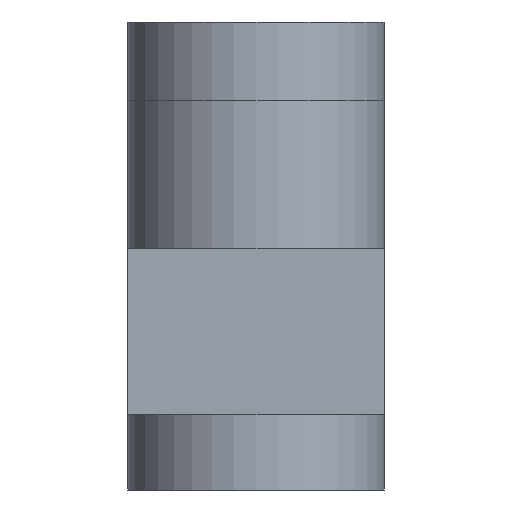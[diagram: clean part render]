
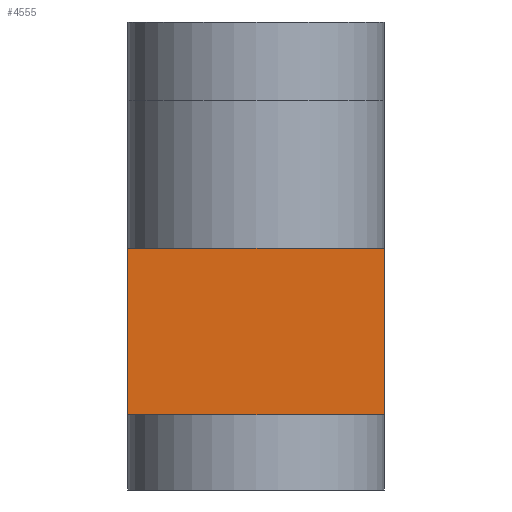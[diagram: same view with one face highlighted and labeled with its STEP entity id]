
A CAD part, left-side view. The second image highlights one B-rep face of the part: STEP entity #4555.
In plain terms, the highlighted planar face has unit normal (-1, 0, 0).
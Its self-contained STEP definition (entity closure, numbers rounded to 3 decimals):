
#371 = PLANE('',#372);
#372 = AXIS2_PLACEMENT_3D('',#373,#374,#375);
#373 = CARTESIAN_POINT('',(-112.,17.,-5.));
#374 = DIRECTION('',(-0.,1.,0.));
#375 = DIRECTION('',(0.,0.,1.));
#452 = PLANE('',#453);
#453 = AXIS2_PLACEMENT_3D('',#454,#455,#456);
#454 = CARTESIAN_POINT('',(-112.,-17.,-5.));
#455 = DIRECTION('',(-0.,1.,0.));
#456 = DIRECTION('',(0.,0.,1.));
#2031 = VERTEX_POINT('',#2032);
#2032 = CARTESIAN_POINT('',(-112.,17.,-5.));
#2046 = PLANE('',#2047);
#2047 = AXIS2_PLACEMENT_3D('',#2048,#2049,#2050);
#2048 = CARTESIAN_POINT('',(-112.,-17.,-5.));
#2049 = DIRECTION('',(0.,0.,1.));
#2050 = DIRECTION('',(1.,0.,-0.));
#2058 = EDGE_CURVE('',#2031,#2059,#2061,.T.);
#2059 = VERTEX_POINT('',#2060);
#2060 = CARTESIAN_POINT('',(-112.,17.,17.));
#2061 = SURFACE_CURVE('',#2062,(#2066,#2073),.PCURVE_S1.);
#2062 = LINE('',#2063,#2064);
#2063 = CARTESIAN_POINT('',(-112.,17.,-5.));
#2064 = VECTOR('',#2065,1.);
#2065 = DIRECTION('',(0.,0.,1.));
#2066 = PCURVE('',#371,#2067);
#2067 = DEFINITIONAL_REPRESENTATION('',(#2068),#2072);
#2068 = LINE('',#2069,#2070);
#2069 = CARTESIAN_POINT('',(0.,0.));
#2070 = VECTOR('',#2071,1.);
#2071 = DIRECTION('',(1.,0.));
#2072 = ( GEOMETRIC_REPRESENTATION_CONTEXT(2) 
PARAMETRIC_REPRESENTATION_CONTEXT() REPRESENTATION_CONTEXT('2D SPACE',''
  ) );
#2073 = PCURVE('',#2074,#2079);
#2074 = PLANE('',#2075);
#2075 = AXIS2_PLACEMENT_3D('',#2076,#2077,#2078);
#2076 = CARTESIAN_POINT('',(-112.,-17.,-5.));
#2077 = DIRECTION('',(1.,0.,-0.));
#2078 = DIRECTION('',(0.,0.,1.));
#2079 = DEFINITIONAL_REPRESENTATION('',(#2080),#2084);
#2080 = LINE('',#2081,#2082);
#2081 = CARTESIAN_POINT('',(0.,-34.));
#2082 = VECTOR('',#2083,1.);
#2083 = DIRECTION('',(1.,0.));
#2084 = ( GEOMETRIC_REPRESENTATION_CONTEXT(2) 
PARAMETRIC_REPRESENTATION_CONTEXT() REPRESENTATION_CONTEXT('2D SPACE',''
  ) );
#2100 = PLANE('',#2101);
#2101 = AXIS2_PLACEMENT_3D('',#2102,#2103,#2104);
#2102 = CARTESIAN_POINT('',(-112.,-17.,17.));
#2103 = DIRECTION('',(0.,0.,1.));
#2104 = DIRECTION('',(1.,0.,-0.));
#2247 = VERTEX_POINT('',#2248);
#2248 = CARTESIAN_POINT('',(-112.,0.,17.));
#2285 = PLANE('',#2286);
#2286 = AXIS2_PLACEMENT_3D('',#2287,#2288,#2289);
#2287 = CARTESIAN_POINT('',(-112.,-17.,17.));
#2288 = DIRECTION('',(0.,0.,1.));
#2289 = DIRECTION('',(1.,0.,-0.));
#2332 = VERTEX_POINT('',#2333);
#2333 = CARTESIAN_POINT('',(-112.,-17.,-5.));
#2347 = PLANE('',#2348);
#2348 = AXIS2_PLACEMENT_3D('',#2349,#2350,#2351);
#2349 = CARTESIAN_POINT('',(-112.,-17.,-5.));
#2350 = DIRECTION('',(0.,0.,1.));
#2351 = DIRECTION('',(1.,0.,-0.));
#2359 = EDGE_CURVE('',#2332,#2360,#2362,.T.);
#2360 = VERTEX_POINT('',#2361);
#2361 = CARTESIAN_POINT('',(-112.,-17.,17.));
#2362 = SURFACE_CURVE('',#2363,(#2367,#2374),.PCURVE_S1.);
#2363 = LINE('',#2364,#2365);
#2364 = CARTESIAN_POINT('',(-112.,-17.,-5.));
#2365 = VECTOR('',#2366,1.);
#2366 = DIRECTION('',(0.,0.,1.));
#2367 = PCURVE('',#452,#2368);
#2368 = DEFINITIONAL_REPRESENTATION('',(#2369),#2373);
#2369 = LINE('',#2370,#2371);
#2370 = CARTESIAN_POINT('',(0.,0.));
#2371 = VECTOR('',#2372,1.);
#2372 = DIRECTION('',(1.,0.));
#2373 = ( GEOMETRIC_REPRESENTATION_CONTEXT(2) 
PARAMETRIC_REPRESENTATION_CONTEXT() REPRESENTATION_CONTEXT('2D SPACE',''
  ) );
#2374 = PCURVE('',#2074,#2375);
#2375 = DEFINITIONAL_REPRESENTATION('',(#2376),#2380);
#2376 = LINE('',#2377,#2378);
#2377 = CARTESIAN_POINT('',(0.,0.));
#2378 = VECTOR('',#2379,1.);
#2379 = DIRECTION('',(1.,0.));
#2380 = ( GEOMETRIC_REPRESENTATION_CONTEXT(2) 
PARAMETRIC_REPRESENTATION_CONTEXT() REPRESENTATION_CONTEXT('2D SPACE',''
  ) );
#4510 = EDGE_CURVE('',#4511,#2031,#4513,.T.);
#4511 = VERTEX_POINT('',#4512);
#4512 = CARTESIAN_POINT('',(-112.,0.,-5.));
#4513 = SURFACE_CURVE('',#4514,(#4518,#4525),.PCURVE_S1.);
#4514 = LINE('',#4515,#4516);
#4515 = CARTESIAN_POINT('',(-112.,-17.,-5.));
#4516 = VECTOR('',#4517,1.);
#4517 = DIRECTION('',(-0.,1.,0.));
#4518 = PCURVE('',#2046,#4519);
#4519 = DEFINITIONAL_REPRESENTATION('',(#4520),#4524);
#4520 = LINE('',#4521,#4522);
#4521 = CARTESIAN_POINT('',(0.,0.));
#4522 = VECTOR('',#4523,1.);
#4523 = DIRECTION('',(0.,1.));
#4524 = ( GEOMETRIC_REPRESENTATION_CONTEXT(2) 
PARAMETRIC_REPRESENTATION_CONTEXT() REPRESENTATION_CONTEXT('2D SPACE',''
  ) );
#4525 = PCURVE('',#2074,#4526);
#4526 = DEFINITIONAL_REPRESENTATION('',(#4527),#4531);
#4527 = LINE('',#4528,#4529);
#4528 = CARTESIAN_POINT('',(0.,0.));
#4529 = VECTOR('',#4530,1.);
#4530 = DIRECTION('',(0.,-1.));
#4531 = ( GEOMETRIC_REPRESENTATION_CONTEXT(2) 
PARAMETRIC_REPRESENTATION_CONTEXT() REPRESENTATION_CONTEXT('2D SPACE',''
  ) );
#4555 = ADVANCED_FACE('',(#4556),#2074,.F.);
#4556 = FACE_BOUND('',#4557,.F.);
#4557 = EDGE_LOOP('',(#4558,#4579,#4580,#4601,#4602,#4603));
#4558 = ORIENTED_EDGE('',*,*,#4559,.F.);
#4559 = EDGE_CURVE('',#2360,#2247,#4560,.T.);
#4560 = SURFACE_CURVE('',#4561,(#4565,#4572),.PCURVE_S1.);
#4561 = LINE('',#4562,#4563);
#4562 = CARTESIAN_POINT('',(-112.,-17.,17.));
#4563 = VECTOR('',#4564,1.);
#4564 = DIRECTION('',(-0.,1.,0.));
#4565 = PCURVE('',#2074,#4566);
#4566 = DEFINITIONAL_REPRESENTATION('',(#4567),#4571);
#4567 = LINE('',#4568,#4569);
#4568 = CARTESIAN_POINT('',(22.,0.));
#4569 = VECTOR('',#4570,1.);
#4570 = DIRECTION('',(0.,-1.));
#4571 = ( GEOMETRIC_REPRESENTATION_CONTEXT(2) 
PARAMETRIC_REPRESENTATION_CONTEXT() REPRESENTATION_CONTEXT('2D SPACE',''
  ) );
#4572 = PCURVE('',#2285,#4573);
#4573 = DEFINITIONAL_REPRESENTATION('',(#4574),#4578);
#4574 = LINE('',#4575,#4576);
#4575 = CARTESIAN_POINT('',(0.,0.));
#4576 = VECTOR('',#4577,1.);
#4577 = DIRECTION('',(0.,1.));
#4578 = ( GEOMETRIC_REPRESENTATION_CONTEXT(2) 
PARAMETRIC_REPRESENTATION_CONTEXT() REPRESENTATION_CONTEXT('2D SPACE',''
  ) );
#4579 = ORIENTED_EDGE('',*,*,#2359,.F.);
#4580 = ORIENTED_EDGE('',*,*,#4581,.T.);
#4581 = EDGE_CURVE('',#2332,#4511,#4582,.T.);
#4582 = SURFACE_CURVE('',#4583,(#4587,#4594),.PCURVE_S1.);
#4583 = LINE('',#4584,#4585);
#4584 = CARTESIAN_POINT('',(-112.,-17.,-5.));
#4585 = VECTOR('',#4586,1.);
#4586 = DIRECTION('',(-0.,1.,0.));
#4587 = PCURVE('',#2074,#4588);
#4588 = DEFINITIONAL_REPRESENTATION('',(#4589),#4593);
#4589 = LINE('',#4590,#4591);
#4590 = CARTESIAN_POINT('',(0.,0.));
#4591 = VECTOR('',#4592,1.);
#4592 = DIRECTION('',(0.,-1.));
#4593 = ( GEOMETRIC_REPRESENTATION_CONTEXT(2) 
PARAMETRIC_REPRESENTATION_CONTEXT() REPRESENTATION_CONTEXT('2D SPACE',''
  ) );
#4594 = PCURVE('',#2347,#4595);
#4595 = DEFINITIONAL_REPRESENTATION('',(#4596),#4600);
#4596 = LINE('',#4597,#4598);
#4597 = CARTESIAN_POINT('',(0.,0.));
#4598 = VECTOR('',#4599,1.);
#4599 = DIRECTION('',(0.,1.));
#4600 = ( GEOMETRIC_REPRESENTATION_CONTEXT(2) 
PARAMETRIC_REPRESENTATION_CONTEXT() REPRESENTATION_CONTEXT('2D SPACE',''
  ) );
#4601 = ORIENTED_EDGE('',*,*,#4510,.T.);
#4602 = ORIENTED_EDGE('',*,*,#2058,.T.);
#4603 = ORIENTED_EDGE('',*,*,#4604,.F.);
#4604 = EDGE_CURVE('',#2247,#2059,#4605,.T.);
#4605 = SURFACE_CURVE('',#4606,(#4610,#4617),.PCURVE_S1.);
#4606 = LINE('',#4607,#4608);
#4607 = CARTESIAN_POINT('',(-112.,-17.,17.));
#4608 = VECTOR('',#4609,1.);
#4609 = DIRECTION('',(-0.,1.,0.));
#4610 = PCURVE('',#2074,#4611);
#4611 = DEFINITIONAL_REPRESENTATION('',(#4612),#4616);
#4612 = LINE('',#4613,#4614);
#4613 = CARTESIAN_POINT('',(22.,0.));
#4614 = VECTOR('',#4615,1.);
#4615 = DIRECTION('',(0.,-1.));
#4616 = ( GEOMETRIC_REPRESENTATION_CONTEXT(2) 
PARAMETRIC_REPRESENTATION_CONTEXT() REPRESENTATION_CONTEXT('2D SPACE',''
  ) );
#4617 = PCURVE('',#2100,#4618);
#4618 = DEFINITIONAL_REPRESENTATION('',(#4619),#4623);
#4619 = LINE('',#4620,#4621);
#4620 = CARTESIAN_POINT('',(0.,0.));
#4621 = VECTOR('',#4622,1.);
#4622 = DIRECTION('',(0.,1.));
#4623 = ( GEOMETRIC_REPRESENTATION_CONTEXT(2) 
PARAMETRIC_REPRESENTATION_CONTEXT() REPRESENTATION_CONTEXT('2D SPACE',''
  ) );
